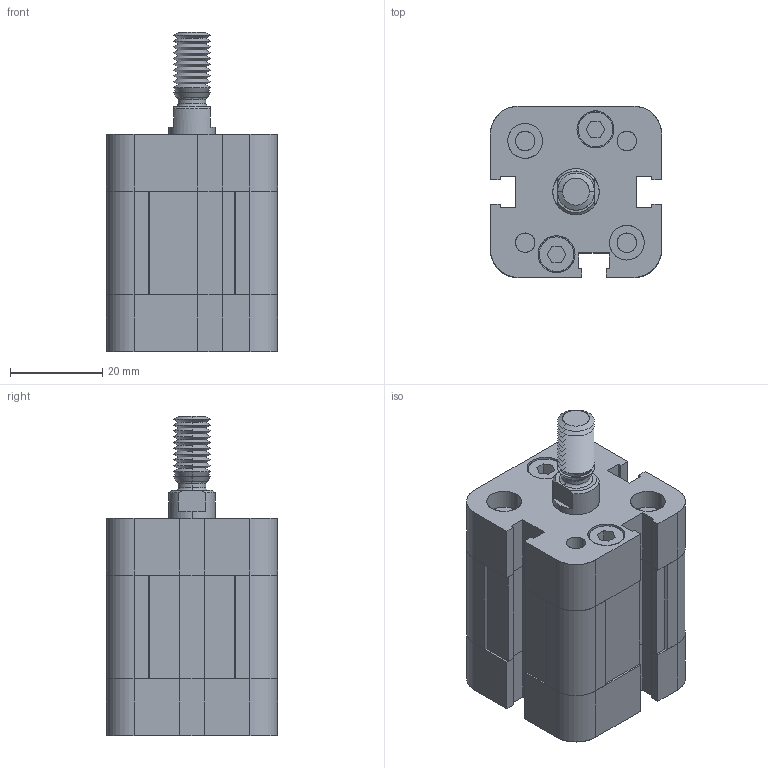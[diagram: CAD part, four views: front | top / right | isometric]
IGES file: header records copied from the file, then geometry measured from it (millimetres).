
Start section: SolidWorks IGES file using analytic representation for surfaces
Global section: file name: c:\CATALO3D\IGS\NSKI020.0010 M.IGS; native system: SolidWorks 2009; preprocessor: SolidWorks 2009; author: utente16; date: 100604.152211; units: millimetre
Bounding box: 37 x 37 x 69 mm (x, y, z)
Surface area: 23661.3 mm2 (no closed solid volume)
Topology: 0 solids, 0 shells, 522 faces, 10143 edges, 12739 vertices
Faces by surface type: bspline 292, revolution 230
